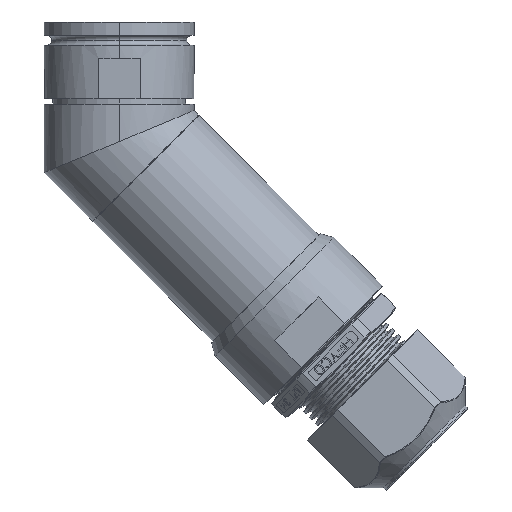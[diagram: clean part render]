
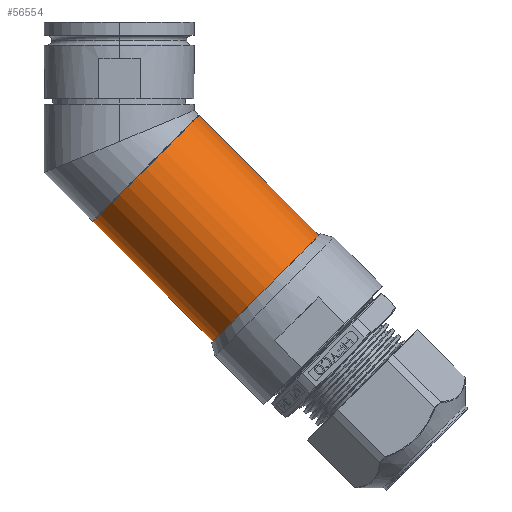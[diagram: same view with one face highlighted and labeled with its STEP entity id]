
A CAD part, left-side view. The second image highlights one B-rep face of the part: STEP entity #56554.
In plain terms, the highlighted cylindrical face has radius 17.691 mm (diameter 35.382 mm), a partial arc.
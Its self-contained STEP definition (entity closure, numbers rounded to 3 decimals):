
#1340 = CIRCLE ( 'NONE', #8523, 17.691 ) ;
#5076 = CYLINDRICAL_SURFACE ( 'NONE', #30161, 17.691 ) ;
#5399 = DIRECTION ( 'NONE',  ( 0., 0.707, 0.707 ) ) ;
#6914 = EDGE_CURVE ( 'NONE', #9720, #41293, #17341, .T. ) ;
#8523 = AXIS2_PLACEMENT_3D ( 'NONE', #54820, #30661, #54167 ) ;
#9720 = VERTEX_POINT ( 'NONE', #39796 ) ;
#10163 = AXIS2_PLACEMENT_3D ( 'NONE', #53858, #38115, #39039 ) ;
#14090 = LINE ( 'NONE', #33099, #21238 ) ;
#14289 = VERTEX_POINT ( 'NONE', #23707 ) ;
#15353 = ORIENTED_EDGE ( 'NONE', *, *, #35248, .F. ) ;
#17341 = CIRCLE ( 'NONE', #10163, 17.691 ) ;
#18659 = CARTESIAN_POINT ( 'NONE',  ( 0., -18.859, -16.407 ) ) ;
#19100 = EDGE_CURVE ( 'NONE', #14289, #9720, #14090, .T. ) ;
#21238 = VECTOR ( 'NONE', #47912, 1000. ) ;
#22033 = CARTESIAN_POINT ( 'NONE',  ( 0., -18.859, -16.407 ) ) ;
#23487 = LINE ( 'NONE', #18659, #52767 ) ;
#23700 = ORIENTED_EDGE ( 'NONE', *, *, #19100, .F. ) ;
#23707 = CARTESIAN_POINT ( 'NONE',  ( 0., -22.163, -69.75 ) ) ;
#25982 = CARTESIAN_POINT ( 'NONE',  ( 0., -6.349, -28.917 ) ) ;
#29562 = EDGE_LOOP ( 'NONE', ( #23700, #15353, #50461, #60678 ) ) ;
#30161 = AXIS2_PLACEMENT_3D ( 'NONE', #25982, #5399, #49482 ) ;
#30661 = DIRECTION ( 'NONE',  ( 0., -0.707, -0.707 ) ) ;
#33099 = CARTESIAN_POINT ( 'NONE',  ( 0., 6.16, -41.426 ) ) ;
#34393 = VERTEX_POINT ( 'NONE', #49902 ) ;
#35248 = EDGE_CURVE ( 'NONE', #34393, #14289, #1340, .T. ) ;
#38115 = DIRECTION ( 'NONE',  ( 0., 0.707, 0.707 ) ) ;
#39039 = DIRECTION ( 'NONE',  ( 0., -0.707, 0.707 ) ) ;
#39796 = CARTESIAN_POINT ( 'NONE',  ( 0., 6.16, -41.426 ) ) ;
#41293 = VERTEX_POINT ( 'NONE', #22033 ) ;
#47912 = DIRECTION ( 'NONE',  ( 0., 0.707, 0.707 ) ) ;
#49482 = DIRECTION ( 'NONE',  ( 0., -0.707, 0.707 ) ) ;
#49902 = CARTESIAN_POINT ( 'NONE',  ( 0., -47.182, -44.731 ) ) ;
#50136 = FACE_OUTER_BOUND ( 'NONE', #29562, .T. ) ;
#50461 = ORIENTED_EDGE ( 'NONE', *, *, #61298, .T. ) ;
#52767 = VECTOR ( 'NONE', #58292, 1000. ) ;
#53858 = CARTESIAN_POINT ( 'NONE',  ( 0., -6.349, -28.917 ) ) ;
#54167 = DIRECTION ( 'NONE',  ( 0., 0.707, -0.707 ) ) ;
#54820 = CARTESIAN_POINT ( 'NONE',  ( 0., -34.673, -57.241 ) ) ;
#56554 = ADVANCED_FACE ( 'NONE', ( #50136 ), #5076, .T. ) ;
#58292 = DIRECTION ( 'NONE',  ( 0., 0.707, 0.707 ) ) ;
#60678 = ORIENTED_EDGE ( 'NONE', *, *, #6914, .F. ) ;
#61298 = EDGE_CURVE ( 'NONE', #34393, #41293, #23487, .T. ) ;
